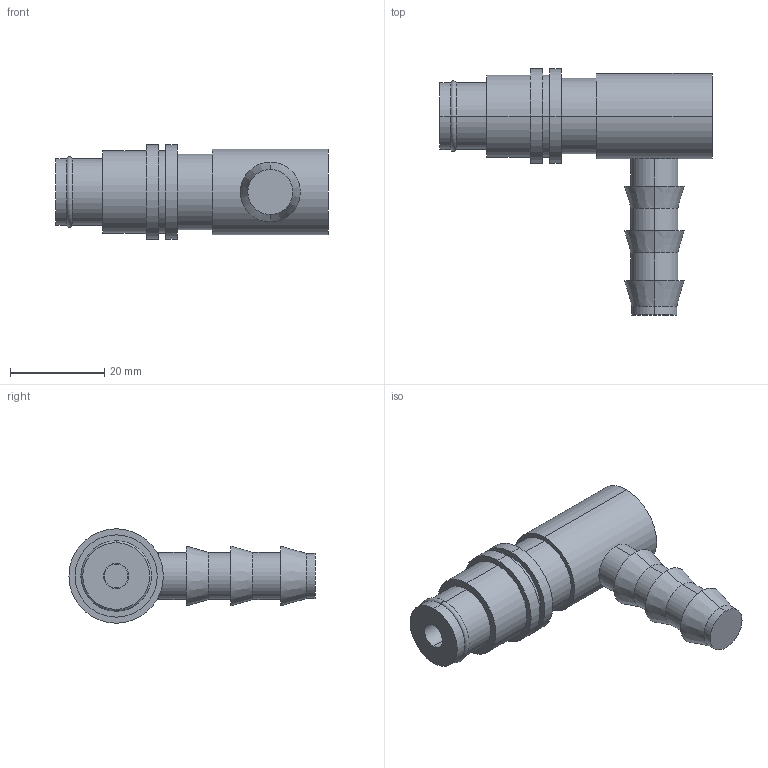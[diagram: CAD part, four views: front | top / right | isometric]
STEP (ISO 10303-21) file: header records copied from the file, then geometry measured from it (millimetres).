
FILE_DESCRIPTION (( 'STEP AP214' ), '1' );
FILE_NAME ('BR85-08.FG10-90.STEP', '2020-06-23T08:25:27', ( '' ), ( '' ), 'SwSTEP 2.0', 'SolidWorks 2018', '' );
FILE_SCHEMA (( 'AUTOMOTIVE_DESIGN' ));
Length unit declared in the file: millimetre
Products named in the file (1): BR85-08.FG10-90
Bounding box: 57.79 x 52.15 x 20 mm (x, y, z)
Volume: 15350.1 mm3; surface area: 6279.5 mm2
Topology: 2 solids, 2 shells, 51 faces, 98 edges, 62 vertices
Faces by surface type: cylinder 28, plane 15, cone 6, torus 2
Entity records: 1359 total; most frequent: DIRECTION 266, CARTESIAN_POINT 212, ORIENTED_EDGE 196, AXIS2_PLACEMENT_3D 116, EDGE_CURVE 98, CIRCLE 64, VERTEX_POINT 62, EDGE_LOOP 62
